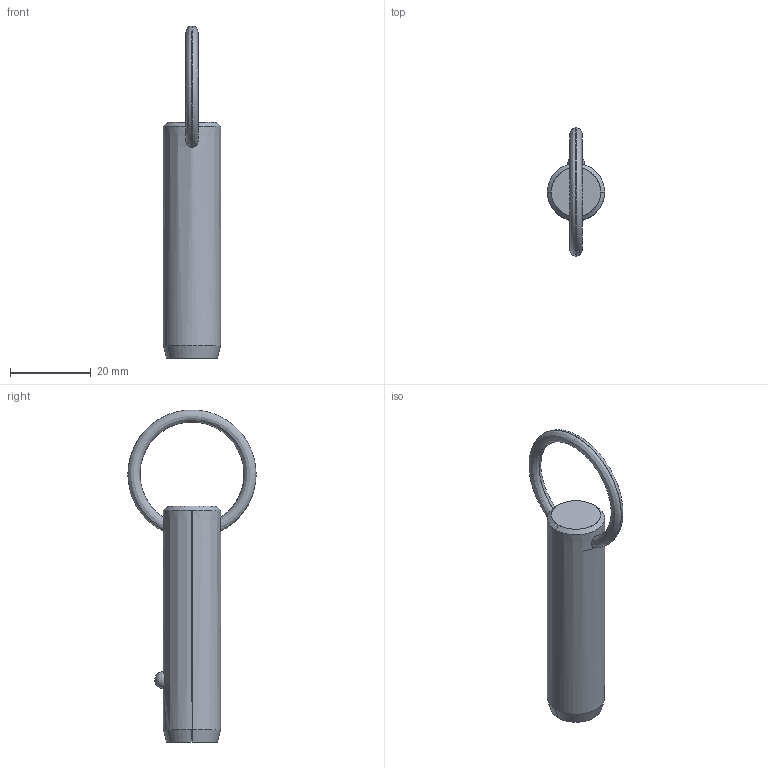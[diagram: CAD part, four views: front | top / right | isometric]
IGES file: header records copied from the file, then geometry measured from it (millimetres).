
Start section: SolidWorks IGES file using analytic representation for surfaces
Global section: file name: C:\Users\liam_\OneDrive\Documents\WORK\Work for WixRoyd\Job Files\J-00019 - Matt Davis CAD Checking\04. CAD Drawings\automotion20190605\P1250.2_v2\P1250.2_v2_20190729_IGES\P1250.056-130.igs; native system: SolidWorks 2017; preprocessor: SolidWorks 2017; author: liam_; date: 190729.231537; units: millimetre
Bounding box: 14.2 x 31.68 x 82.1 mm (x, y, z)
Surface area: 3566.7 mm2 (no closed solid volume)
Topology: 0 solids, 0 shells, 12 faces, 285 edges, 283 vertices
Faces by surface type: revolution 8, bspline 4
